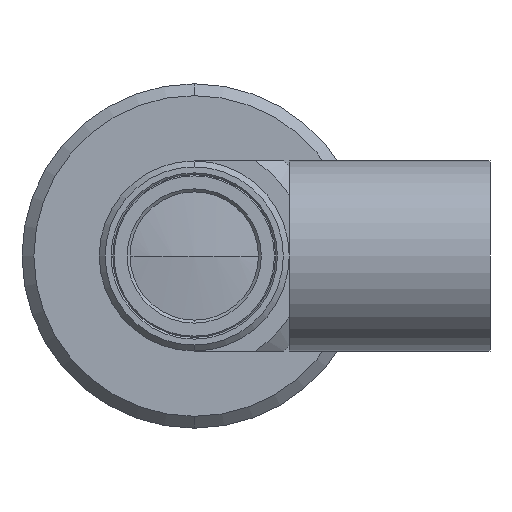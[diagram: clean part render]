
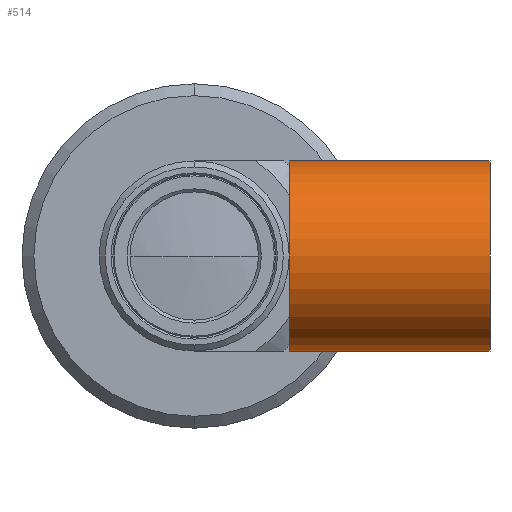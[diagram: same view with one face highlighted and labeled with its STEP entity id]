
A CAD part, left-side view. The second image highlights one B-rep face of the part: STEP entity #514.
In plain terms, the highlighted cylindrical face has radius 8 mm (diameter 16 mm), a partial arc.
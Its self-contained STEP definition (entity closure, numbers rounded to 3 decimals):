
#35 = VECTOR ( 'NONE', #2804, 1000. ) ;
#143 = CIRCLE ( 'NONE', #2946, 8. ) ;
#299 = CARTESIAN_POINT ( 'NONE',  ( 27.307, -8., 8. ) ) ;
#468 = VERTEX_POINT ( 'NONE', #299 ) ;
#508 = ORIENTED_EDGE ( 'NONE', *, *, #1903, .T. ) ;
#514 = ADVANCED_FACE ( 'NONE', ( #1112 ), #1614, .T. ) ;
#605 = EDGE_CURVE ( 'NONE', #845, #468, #143, .T. ) ;
#663 = CARTESIAN_POINT ( 'NONE',  ( 27.307, -24.9, 0. ) ) ;
#743 = AXIS2_PLACEMENT_3D ( 'NONE', #663, #2384, #908 ) ;
#845 = VERTEX_POINT ( 'NONE', #1535 ) ;
#855 = CARTESIAN_POINT ( 'NONE',  ( 27.307, 22.343, 8. ) ) ;
#908 = DIRECTION ( 'NONE',  ( 0., 0., 1. ) ) ;
#935 = ORIENTED_EDGE ( 'NONE', *, *, #2367, .F. ) ;
#941 = CARTESIAN_POINT ( 'NONE',  ( 27.307, -8., 0. ) ) ;
#1085 = CARTESIAN_POINT ( 'NONE',  ( 27.307, 22.343, -8. ) ) ;
#1087 = EDGE_LOOP ( 'NONE', ( #935, #508, #1912, #1209 ) ) ;
#1104 = CARTESIAN_POINT ( 'NONE',  ( 27.307, -24.9, -8. ) ) ;
#1112 = FACE_OUTER_BOUND ( 'NONE', #1087, .T. ) ;
#1155 = CARTESIAN_POINT ( 'NONE',  ( 27.307, -24.9, 8. ) ) ;
#1209 = ORIENTED_EDGE ( 'NONE', *, *, #605, .F. ) ;
#1352 = LINE ( 'NONE', #1085, #35 ) ;
#1504 = CIRCLE ( 'NONE', #743, 8. ) ;
#1535 = CARTESIAN_POINT ( 'NONE',  ( 27.307, -8., -8. ) ) ;
#1614 = CYLINDRICAL_SURFACE ( 'NONE', #2444, 8. ) ;
#1651 = DIRECTION ( 'NONE',  ( 0., 1., 0. ) ) ;
#1730 = VERTEX_POINT ( 'NONE', #1155 ) ;
#1901 = CARTESIAN_POINT ( 'NONE',  ( 27.307, 22.343, 0. ) ) ;
#1903 = EDGE_CURVE ( 'NONE', #2805, #1730, #1504, .T. ) ;
#1912 = ORIENTED_EDGE ( 'NONE', *, *, #2163, .T. ) ;
#1979 = VECTOR ( 'NONE', #3090, 1000. ) ;
#2163 = EDGE_CURVE ( 'NONE', #1730, #468, #2630, .T. ) ;
#2367 = EDGE_CURVE ( 'NONE', #2805, #845, #1352, .T. ) ;
#2376 = DIRECTION ( 'NONE',  ( 0., 0., 1. ) ) ;
#2384 = DIRECTION ( 'NONE',  ( 0., 1., 0. ) ) ;
#2444 = AXIS2_PLACEMENT_3D ( 'NONE', #1901, #1651, #2376 ) ;
#2630 = LINE ( 'NONE', #855, #1979 ) ;
#2663 = DIRECTION ( 'NONE',  ( 0., 1., 0. ) ) ;
#2804 = DIRECTION ( 'NONE',  ( 0., 1., 0. ) ) ;
#2805 = VERTEX_POINT ( 'NONE', #1104 ) ;
#2917 = DIRECTION ( 'NONE',  ( 0., 0., 1. ) ) ;
#2946 = AXIS2_PLACEMENT_3D ( 'NONE', #941, #2663, #2917 ) ;
#3090 = DIRECTION ( 'NONE',  ( 0., 1., 0. ) ) ;
